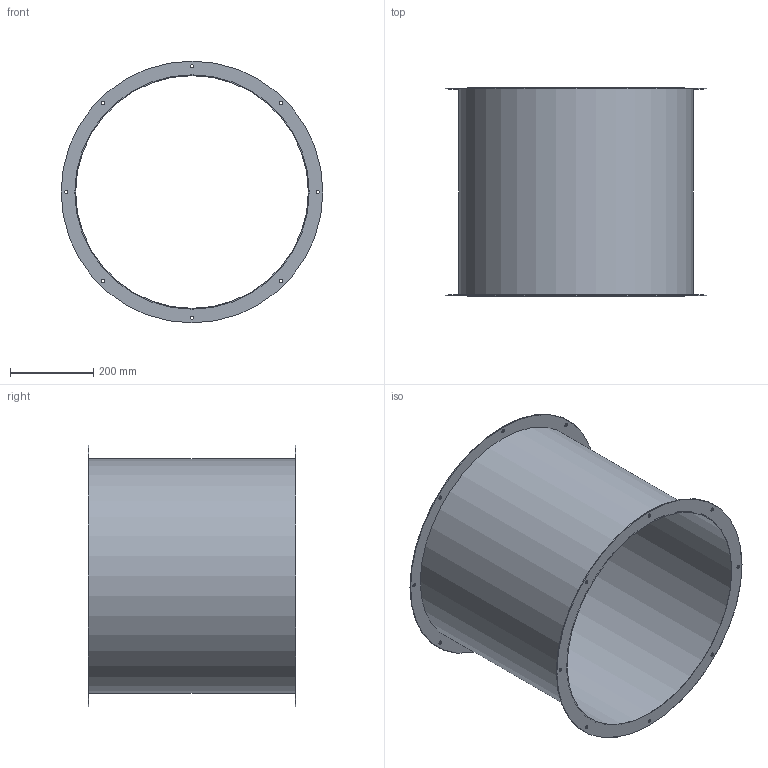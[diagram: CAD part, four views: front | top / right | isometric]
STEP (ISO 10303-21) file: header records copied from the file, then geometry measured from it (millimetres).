
FILE_DESCRIPTION(/* description */ (''),/* implementation_level */ '2;1');
FILE_NAME(/* name */ 'Z:\Output\VR 560-01409-001.stp',/* time_stamp */ '2017-05-05T18:42:49+02:00',/* author */ ('jayeshpanchal'),/* organization */ (''),/* preprocessor_version */ 'ST-DEVELOPER v16.5',/* originating_system */ 'Autodesk Inventor 2017',/* authorisation */ '');
FILE_SCHEMA (('AUTOMOTIVE_DESIGN { 1 0 10303 214 3 1 1 }'));
Length unit declared in the file: millimetre
Products named in the file (1): VR-1
Bounding box: 630 x 500 x 630 mm (x, y, z)
Volume: 2011536.6 mm3; surface area: 2020232.6 mm2
Topology: 1 solids, 1 shells, 24 faces, 60 edges, 40 vertices
Faces by surface type: cylinder 20, plane 4
Full cylindrical faces by diameter (mm): 8 x16, 560 x1, 564 x1, 630 x2
Entity records: 742 total; most frequent: DIRECTION 130, CARTESIAN_POINT 105, EDGE_LOOP 80, ORIENTED_EDGE 80, AXIS2_PLACEMENT_3D 65, FACE_BOUND 56, CIRCLE 40, VERTEX_POINT 40
